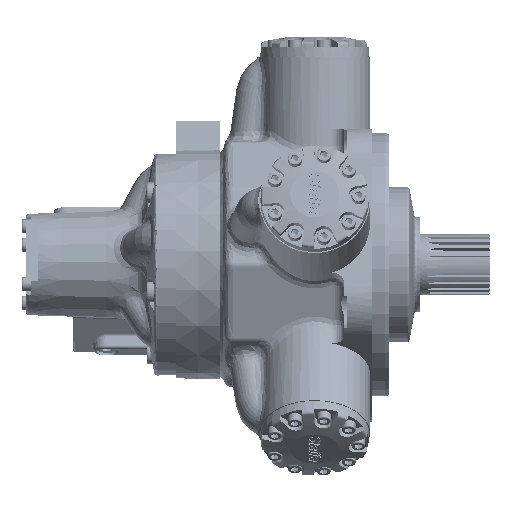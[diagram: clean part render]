
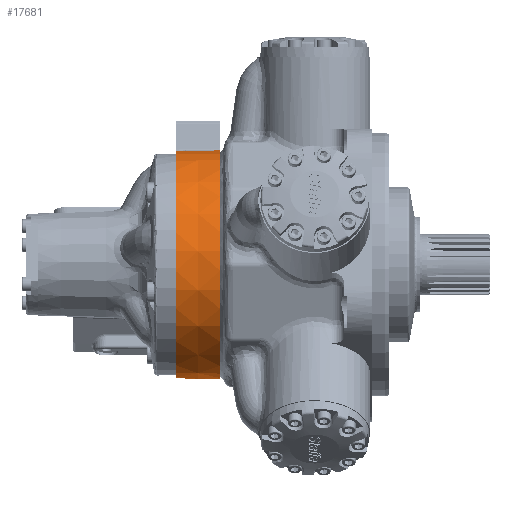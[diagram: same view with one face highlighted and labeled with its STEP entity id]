
A CAD part, front view. The second image highlights one B-rep face of the part: STEP entity #17681.
In plain terms, the highlighted conical face has half-angle 1 degrees and reference radius 130.68 mm.
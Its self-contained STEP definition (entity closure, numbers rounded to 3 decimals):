
#14880=CARTESIAN_POINT('',(-159.067,84.887,98.769));
#14881=VERTEX_POINT('',#14880);
#14900=CARTESIAN_POINT('',(-159.067,-10.62,129.802));
#14901=VERTEX_POINT('',#14900);
#14902=CARTESIAN_POINT('',(-159.067,0.,0.));
#14903=DIRECTION('',(1.,0.,0.));
#14904=DIRECTION('',(0.,0.951,-0.309));
#14905=AXIS2_PLACEMENT_3D('',#14902,#14903,#14904);
#14906=CIRCLE('',#14905,130.235);
#14907=EDGE_CURVE('',#14901,#14881,#14906,.T.);
#15059=CARTESIAN_POINT('',(-108.267,85.191,99.677));
#15060=VERTEX_POINT('',#15059);
#15151=CARTESIAN_POINT('',(-108.267,-10.332,130.714));
#15152=VERTEX_POINT('',#15151);
#15169=CARTESIAN_POINT('',(-108.267,0.,0.));
#15170=DIRECTION('',(-1.,0.,0.));
#15171=DIRECTION('',(0.,0.951,-0.309));
#15172=AXIS2_PLACEMENT_3D('',#15169,#15170,#15171);
#15173=CIRCLE('',#15172,131.122);
#15174=EDGE_CURVE('',#15060,#15152,#15173,.T.);
#17652=CARTESIAN_POINT('',(-159.067,-10.62,129.802));
#17653=CARTESIAN_POINT('',(-142.134,-10.524,130.106));
#17654=CARTESIAN_POINT('',(-125.201,-10.428,130.41));
#17655=CARTESIAN_POINT('',(-108.267,-10.332,130.714));
#17656=B_SPLINE_CURVE_WITH_KNOTS('',3,(#17652,#17653,#17654,#17655),.UNSPECIFIED.,.F.,.U.,(4,4),(-5.764,-0.683),.UNSPECIFIED.);
#17657=EDGE_CURVE('',#14901,#15152,#17656,.T.);
#17664=CARTESIAN_POINT('',(-133.57,0.,0.));
#17665=DIRECTION('',(1.0,0.,0.));
#17666=DIRECTION('',(0.,0.951,-0.309));
#17667=AXIS2_PLACEMENT_3D('',#17664,#17665,#17666);
#17668=CONICAL_SURFACE('',#17667,130.68,1.);
#17669=ORIENTED_EDGE('',*,*,#14907,.T.);
#17670=CARTESIAN_POINT('',(-108.267,85.191,99.677));
#17671=CARTESIAN_POINT('',(-125.201,85.09,99.375));
#17672=CARTESIAN_POINT('',(-142.134,84.988,99.072));
#17673=CARTESIAN_POINT('',(-159.067,84.887,98.769));
#17674=B_SPLINE_CURVE_WITH_KNOTS('',3,(#17670,#17671,#17672,#17673),.UNSPECIFIED.,.F.,.U.,(4,4),(-5.739,-0.658),.UNSPECIFIED.);
#17675=EDGE_CURVE('',#15060,#14881,#17674,.T.);
#17676=ORIENTED_EDGE('',*,*,#17675,.F.);
#17677=ORIENTED_EDGE('',*,*,#15174,.T.);
#17678=ORIENTED_EDGE('',*,*,#17657,.F.);
#17679=EDGE_LOOP('',(#17669,#17676,#17677,#17678));
#17680=FACE_OUTER_BOUND('',#17679,.T.);
#17681=ADVANCED_FACE('',(#17680),#17668,.T.);
